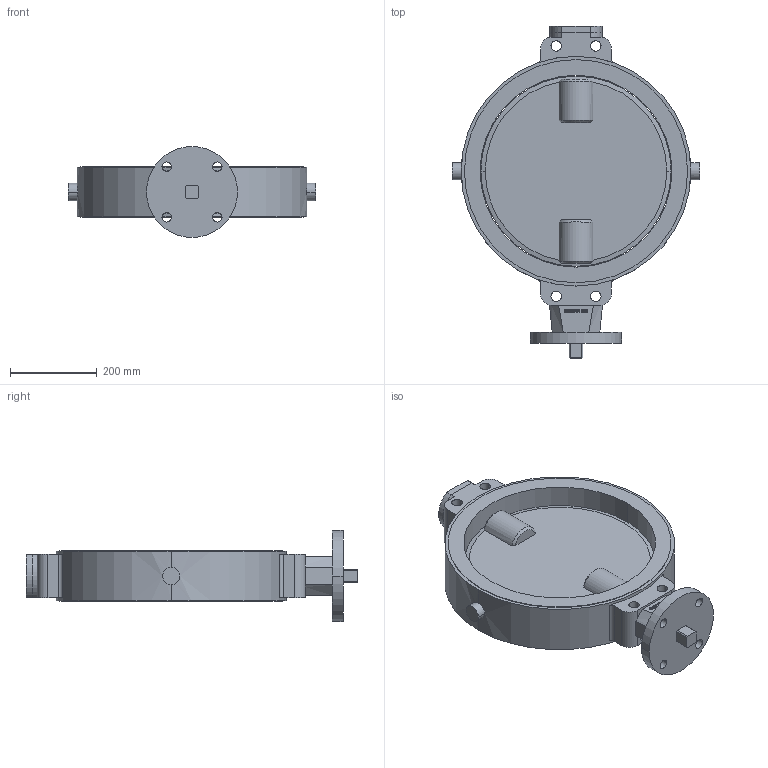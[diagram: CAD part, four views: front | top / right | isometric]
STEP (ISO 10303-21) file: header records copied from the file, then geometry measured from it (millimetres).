
FILE_DESCRIPTION((''),'2;1');
FILE_NAME('KL000110.stp','2007-11-19T12:02:02',(''),(''),'Mechanical Desktop 2008','Mechanical Desktop 2008',', , ');
FILE_SCHEMA(('AUTOMOTIVE_DESIGN { 1 2 10303 214 1 1 1 1 }'));
Length unit declared in the file: millimetre
Products named in the file (1): KL000110A
Bounding box: 570 x 766 x 210 mm (x, y, z)
Volume: 14552324.8 mm3; surface area: 1435688.7 mm2
Topology: 20 solids, 20 shells, 350 faces, 920 edges, 612 vertices
Faces by surface type: plane 193, cylinder 126, bspline 25, cone 6
Entity records: 11490 total; most frequent: CARTESIAN_POINT 2653, ORIENTED_EDGE 1840, DIRECTION 1802, EDGE_CURVE 920, VERTEX_POINT 612, AXIS2_PLACEMENT_3D 609, VECTOR 584, LINE 584
